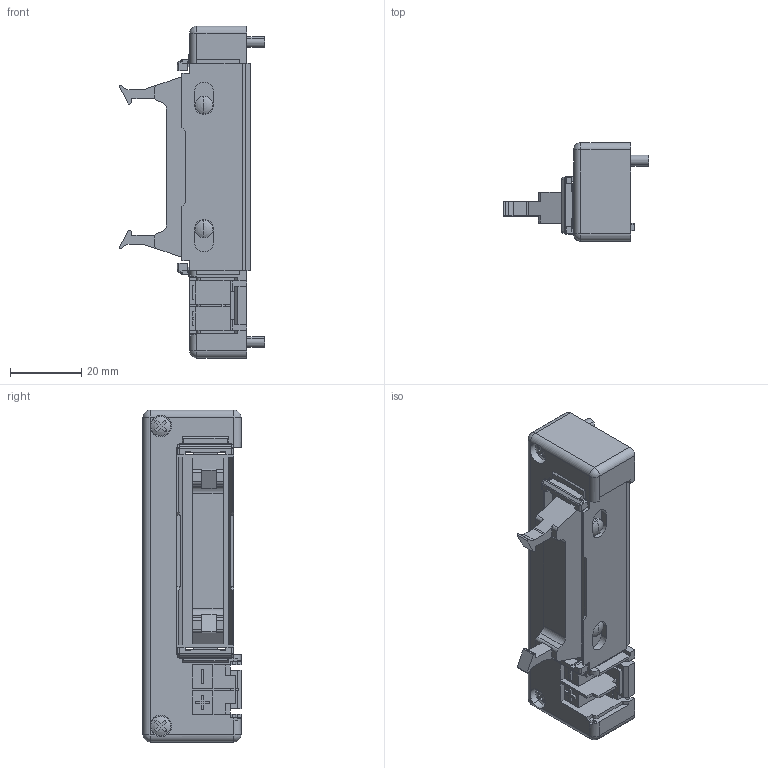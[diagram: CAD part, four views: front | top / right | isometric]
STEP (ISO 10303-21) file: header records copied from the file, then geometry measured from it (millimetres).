
FILE_DESCRIPTION( (''), '2;1');
FILE_NAME ('CVICAD02.288.FZX-F260-E_11641.stp','2020-08-31T10:47:43',(''),(''),'spGate 12.6.6','','');
FILE_SCHEMA (('AUTOMOTIVE_DESIGN'));
Length unit declared in the file: millimetre
Products named in the file (3): Assembly; CVICAD02-prt0; CVICAD02-prt1
Assembly tree (2 placements, depth 2):
  Assembly
    CVICAD02-prt0
    CVICAD02-prt1
Bounding box: 40.7 x 27.5 x 93 mm (x, y, z)
Volume: 35225.6 mm3; surface area: 15058.1 mm2
Topology: 2 solids, 2 shells, 415 faces, 1206 edges, 778 vertices
Faces by surface type: plane 306, cylinder 84, sphere 20, bspline 5
Entity records: 22900 total; most frequent: CARTESIAN_POINT 2603, ORIENTED_EDGE 2380, DIRECTION 2210, COLOUR_RGB 1607, PRESENTATION_STYLE_ASSIGNMENT 1607, STYLED_ITEM 1607, EDGE_CURVE 1190, DRAUGHTING_PRE_DEFINED_CURVE_FONT 1190
